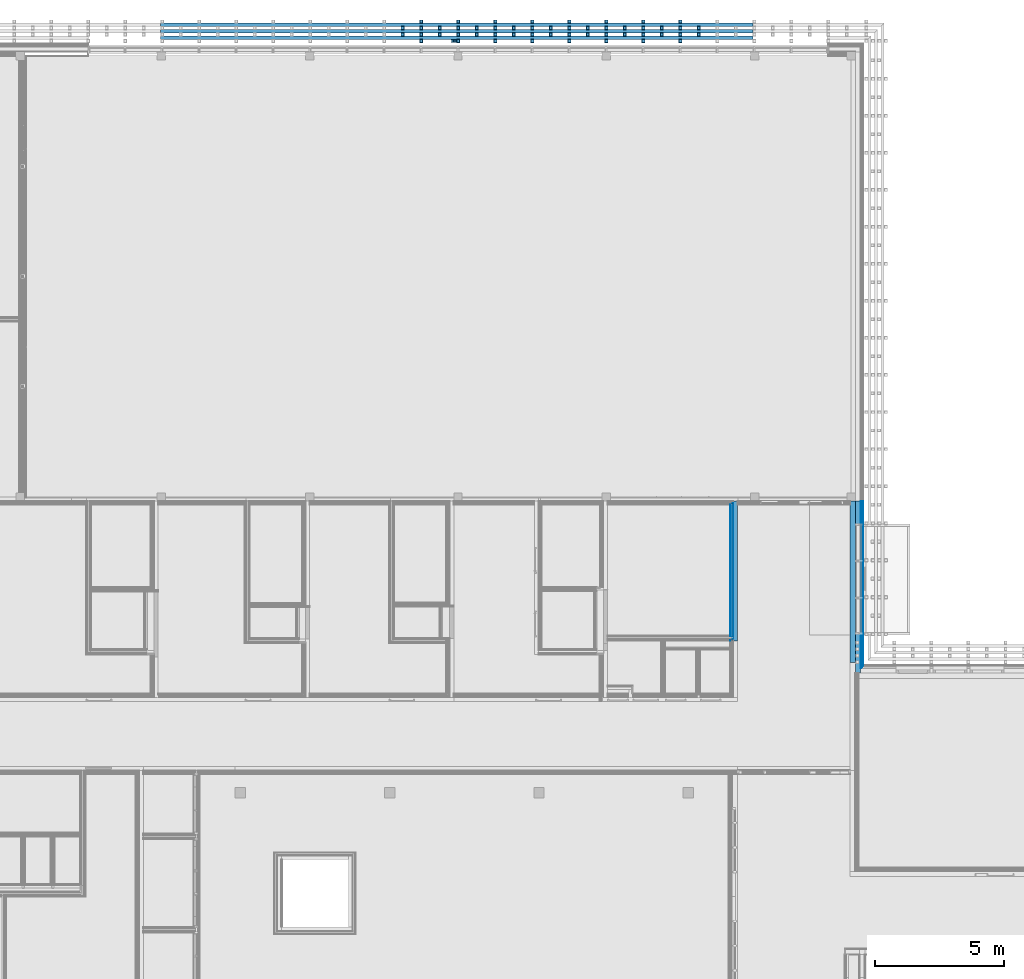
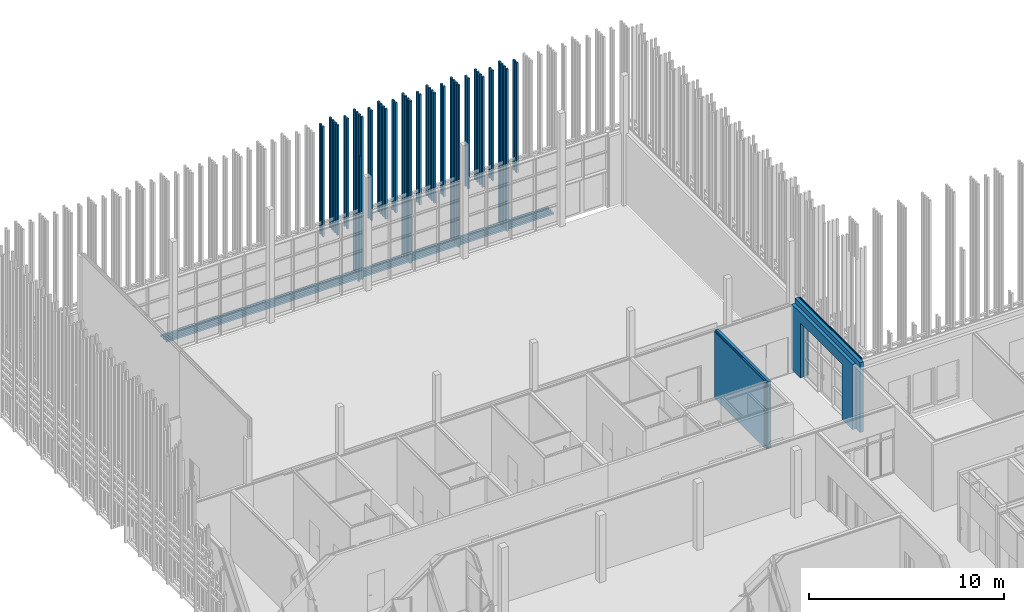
# One storey, part 232 of 260: 19 discrete accessories, 12 building element parts, 1 opening, 2 elements without a shape of their own.
"""IFC2X3 building model written with IfcOpenShell, lengths in millimetres."""

from ifc_helpers import new_model, entity, si_unit, converted_unit, derived_unit, money_unit, direction, frame, origin_with_axes, place, context, subcontext, project, spatial, open_shell, faceted_brep, surface_model, material, material_list, type_object, element, aggregate, save


model = new_model("IFC2X3")

# Units and contexts
model_context = context("Model", 3, precision=0.01, world=origin_with_axes(), true_north=direction((0.0, 1.0)))
body_context = subcontext(model_context, "Body", "Model", "MODEL_VIEW")
ifc_project = project(units=[si_unit("LENGTHUNIT", "METRE", prefix="MILLI"), si_unit("AREAUNIT", "SQUARE_METRE"), si_unit("VOLUMEUNIT", "CUBIC_METRE"), converted_unit("PLANEANGLEUNIT", "DEGREE", entity("IfcPlaneAngleMeasure", 0.0174532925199), si_unit("PLANEANGLEUNIT", "RADIAN"), dimensions=[0, 0, 0, 0, 0, 0, 0]), money_unit("EUR"), converted_unit("TIMEUNIT", "Year", entity("IfcTimeMeasure", 31556926.0), si_unit("TIMEUNIT", "SECOND"), dimensions=[0, 0, 1, 0, 0, 0, 0]), si_unit("MASSUNIT", "GRAM", prefix="KILO"), si_unit("THERMODYNAMICTEMPERATUREUNIT", "DEGREE_CELSIUS"), si_unit("LUMINOUSINTENSITYUNIT", "LUMEN"), si_unit("ENERGYUNIT", "JOULE", prefix="MEGA"), derived_unit("THERMALCONDUCTANCEUNIT", [(si_unit("POWERUNIT", "WATT"), 1), (si_unit("LENGTHUNIT", "METRE"), -1), (si_unit("THERMODYNAMICTEMPERATUREUNIT", "KELVIN"), -1)]), derived_unit("SPECIFICHEATCAPACITYUNIT", [(si_unit("ENERGYUNIT", "JOULE"), 1), (si_unit("MASSUNIT", "GRAM", prefix="KILO"), -1), (si_unit("THERMODYNAMICTEMPERATUREUNIT", "KELVIN"), -1)]), derived_unit("MASSDENSITYUNIT", [(si_unit("MASSUNIT", "GRAM", prefix="KILO"), 1), (si_unit("VOLUMEUNIT", "CUBIC_METRE"), -1)])], contexts=[model_context])

# Site, building, storey
site_placement = place(None, origin_with_axes())
site = spatial("IfcSite", under=ifc_project, at=site_placement, Name="Kolde pst 67a", CompositionType="ELEMENT")
building_placement = place(site_placement, origin_with_axes())
building = spatial("IfcBuilding", under=site, at=building_placement, Name="Riigigümnaasium", CompositionType="ELEMENT")
storey_placement = place(building_placement, origin_with_axes())
storey = spatial("IfcBuildingStorey", under=building, at=storey_placement, Name="1. korrus", CompositionType="ELEMENT", Elevation=0.0)

# Discrete accessories
ifc_material_1 = material(Name="_VÄLISVIIMISTLUS - sõrmjätkatud puitprussid 120x115mm, liitekohad vähemärgatavad, Platowood sõrmjätkatud kuusk või samaväärne; eeltöödeldud tuletõkkevõõbaga, tuletundlikkus B-s1, d0, Woodsafe Exterior WFX™ või samaväärne; kinnitused vastavalt EK osale")
ifc_material_list_1 = material_list([ifc_material_1, ifc_material_1, ifc_material_1, ifc_material_1])
discrete_accessory_type_1 = type_object("IfcDiscreteAccessoryType", Name="120 4-ne vertikaalne 870 x 115")
discrete_accessory_1_placement = place(storey_placement, frame((29692.4999347, 84790.0013546, 280.0), z_axis=(0.0, 0.0, 1.0), x_axis=(-2.93429595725e-05, -0.999999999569, 0.0)))
element("IfcDiscreteAccessory", 1, at=discrete_accessory_1_placement, inside=storey, type_object=discrete_accessory_type_1, material=ifc_material_list_1, Name="Päikesevarjestus", context=body_context, shape_type="Brep", body=[
    faceted_brep([(-133.0, -70.0, 0.0), (-13.0, -70.0, 0.0), (-13.0, -70.0, 10140.0), (-133.0, -70.0, 10140.0), (-133.0, 45.0, 0.0), (-13.0, 45.0, 0.0), (-13.0, 45.0, 10140.0), (-133.0, 45.0, 10140.0)], [[[0, 1, 2, 3]], [[0, 4, 5, 1]], [[1, 5, 6, 2]], [[3, 2, 6, 7]], [[4, 0, 3, 7]], [[5, 4, 7, 6]]]),
    faceted_brep([(-383.0, -70.0, 0.0), (-263.0, -70.0, 0.0), (-263.0, -70.0, 10140.0), (-383.0, -70.0, 10140.0), (-383.0, 45.0, 0.0), (-263.0, 45.0, 0.0), (-263.0, 45.0, 10140.0), (-383.0, 45.0, 10140.0)], [[[0, 1, 2, 3]], [[0, 4, 5, 1]], [[1, 5, 6, 2]], [[3, 2, 6, 7]], [[4, 0, 3, 7]], [[5, 4, 7, 6]]]),
    faceted_brep([(-633.0, -70.0, 0.0), (-513.0, -70.0, 0.0), (-513.0, -70.0, 10140.0), (-633.0, -70.0, 10140.0), (-633.0, 45.0, 0.0), (-513.0, 45.0, 0.0), (-513.0, 45.0, 10140.0), (-633.0, 45.0, 10140.0)], [[[0, 1, 2, 3]], [[0, 4, 5, 1]], [[1, 5, 6, 2]], [[3, 2, 6, 7]], [[4, 0, 3, 7]], [[5, 4, 7, 6]]]),
    faceted_brep([(-883.0, -70.0, 0.0), (-763.0, -70.0, 0.0), (-763.0, -70.0, 10140.0), (-883.0, -70.0, 10140.0), (-883.0, 45.0, 0.0), (-763.0, 45.0, 0.0), (-763.0, 45.0, 10140.0), (-883.0, 45.0, 10140.0)], [[[0, 1, 2, 3]], [[0, 4, 5, 1]], [[1, 5, 6, 2]], [[3, 2, 6, 7]], [[4, 0, 3, 7]], [[5, 4, 7, 6]]]),
])
discrete_accessory_2_placement = place(storey_placement, frame((28262.4999347, 84790.0013546, 3540.00014213), z_axis=(0.0, 0.0, 1.0), x_axis=(-2.93429595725e-05, -0.999999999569, 0.0)))
element("IfcDiscreteAccessory", 2, at=discrete_accessory_2_placement, inside=storey, type_object=discrete_accessory_type_1, material=ifc_material_list_1, Name="Päikesevarjestus", context=body_context, shape_type="Brep", body=[
    faceted_brep([(-133.0, -70.0, 0.0), (-13.0, -70.0, 0.0), (-13.0, -70.0, 6879.99985787), (-133.0, -70.0, 6879.99985787), (-133.0, 45.0, 0.0), (-13.0, 45.0, 0.0), (-13.0, 45.0, 6879.99985787), (-133.0, 45.0, 6879.99985787)], [[[0, 1, 2, 3]], [[0, 4, 5, 1]], [[1, 5, 6, 2]], [[3, 2, 6, 7]], [[4, 0, 3, 7]], [[5, 4, 7, 6]]]),
    faceted_brep([(-383.0, -70.0, 0.0), (-263.0, -70.0, 0.0), (-263.0, -70.0, 6879.99985787), (-383.0, -70.0, 6879.99985787), (-383.0, 45.0, 0.0), (-263.0, 45.0, 0.0), (-263.0, 45.0, 6879.99985787), (-383.0, 45.0, 6879.99985787)], [[[0, 1, 2, 3]], [[0, 4, 5, 1]], [[1, 5, 6, 2]], [[3, 2, 6, 7]], [[4, 0, 3, 7]], [[5, 4, 7, 6]]]),
    faceted_brep([(-633.0, -70.0, 0.0), (-513.0, -70.0, 0.0), (-513.0, -70.0, 6879.99985787), (-633.0, -70.0, 6879.99985787), (-633.0, 45.0, 0.0), (-513.0, 45.0, 0.0), (-513.0, 45.0, 6879.99985787), (-633.0, 45.0, 6879.99985787)], [[[0, 1, 2, 3]], [[0, 4, 5, 1]], [[1, 5, 6, 2]], [[3, 2, 6, 7]], [[4, 0, 3, 7]], [[5, 4, 7, 6]]]),
    faceted_brep([(-883.0, -70.0, 0.0), (-763.0, -70.0, 0.0), (-763.0, -70.0, 6879.99985787), (-883.0, -70.0, 6879.99985787), (-883.0, 45.0, 0.0), (-763.0, 45.0, 0.0), (-763.0, 45.0, 6879.99985787), (-883.0, 45.0, 6879.99985787)], [[[0, 1, 2, 3]], [[0, 4, 5, 1]], [[1, 5, 6, 2]], [[3, 2, 6, 7]], [[4, 0, 3, 7]], [[5, 4, 7, 6]]]),
])
discrete_accessory_3_placement = place(storey_placement, frame((26832.4999347, 84790.0013546, 280.0), z_axis=(0.0, 0.0, 1.0), x_axis=(-2.93429595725e-05, -0.999999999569, 0.0)))
element("IfcDiscreteAccessory", 3, at=discrete_accessory_3_placement, inside=storey, type_object=discrete_accessory_type_1, material=ifc_material_list_1, Name="Päikesevarjestus", context=body_context, shape_type="Brep", body=[
    faceted_brep([(-133.0, -70.0, 0.0), (-13.0, -70.0, 0.0), (-13.0, -70.0, 10140.0), (-133.0, -70.0, 10140.0), (-133.0, 45.0, 0.0), (-13.0, 45.0, 0.0), (-13.0, 45.0, 10140.0), (-133.0, 45.0, 10140.0)], [[[0, 1, 2, 3]], [[0, 4, 5, 1]], [[1, 5, 6, 2]], [[3, 2, 6, 7]], [[4, 0, 3, 7]], [[5, 4, 7, 6]]]),
    faceted_brep([(-383.0, -70.0, 0.0), (-263.0, -70.0, 0.0), (-263.0, -70.0, 10140.0), (-383.0, -70.0, 10140.0), (-383.0, 45.0, 0.0), (-263.0, 45.0, 0.0), (-263.0, 45.0, 10140.0), (-383.0, 45.0, 10140.0)], [[[0, 1, 2, 3]], [[0, 4, 5, 1]], [[1, 5, 6, 2]], [[3, 2, 6, 7]], [[4, 0, 3, 7]], [[5, 4, 7, 6]]]),
    faceted_brep([(-633.0, -70.0, 0.0), (-513.0, -70.0, 0.0), (-513.0, -70.0, 10140.0), (-633.0, -70.0, 10140.0), (-633.0, 45.0, 0.0), (-513.0, 45.0, 0.0), (-513.0, 45.0, 10140.0), (-633.0, 45.0, 10140.0)], [[[0, 1, 2, 3]], [[0, 4, 5, 1]], [[1, 5, 6, 2]], [[3, 2, 6, 7]], [[4, 0, 3, 7]], [[5, 4, 7, 6]]]),
    faceted_brep([(-883.0, -70.0, 0.0), (-763.0, -70.0, 0.0), (-763.0, -70.0, 10140.0), (-883.0, -70.0, 10140.0), (-883.0, 45.0, 0.0), (-763.0, 45.0, 0.0), (-763.0, 45.0, 10140.0), (-883.0, 45.0, 10140.0)], [[[0, 1, 2, 3]], [[0, 4, 5, 1]], [[1, 5, 6, 2]], [[3, 2, 6, 7]], [[4, 0, 3, 7]], [[5, 4, 7, 6]]]),
])
discrete_accessory_4_placement = place(storey_placement, frame((25402.4999347, 84790.0013546, 3540.00014213), z_axis=(0.0, 0.0, 1.0), x_axis=(-2.93429595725e-05, -0.999999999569, 0.0)))
element("IfcDiscreteAccessory", 4, at=discrete_accessory_4_placement, inside=storey, type_object=discrete_accessory_type_1, material=ifc_material_list_1, Name="Päikesevarjestus", context=body_context, shape_type="Brep", body=[
    faceted_brep([(-133.0, -70.0, 0.0), (-13.0, -70.0, 0.0), (-13.0, -70.0, 6879.99985787), (-133.0, -70.0, 6879.99985787), (-133.0, 45.0, 0.0), (-13.0, 45.0, 0.0), (-13.0, 45.0, 6879.99985787), (-133.0, 45.0, 6879.99985787)], [[[0, 1, 2, 3]], [[0, 4, 5, 1]], [[1, 5, 6, 2]], [[3, 2, 6, 7]], [[4, 0, 3, 7]], [[5, 4, 7, 6]]]),
    faceted_brep([(-383.0, -70.0, 0.0), (-263.0, -70.0, 0.0), (-263.0, -70.0, 6879.99985787), (-383.0, -70.0, 6879.99985787), (-383.0, 45.0, 0.0), (-263.0, 45.0, 0.0), (-263.0, 45.0, 6879.99985787), (-383.0, 45.0, 6879.99985787)], [[[0, 1, 2, 3]], [[0, 4, 5, 1]], [[1, 5, 6, 2]], [[3, 2, 6, 7]], [[4, 0, 3, 7]], [[5, 4, 7, 6]]]),
    faceted_brep([(-633.0, -70.0, 0.0), (-513.0, -70.0, 0.0), (-513.0, -70.0, 6879.99985787), (-633.0, -70.0, 6879.99985787), (-633.0, 45.0, 0.0), (-513.0, 45.0, 0.0), (-513.0, 45.0, 6879.99985787), (-633.0, 45.0, 6879.99985787)], [[[0, 1, 2, 3]], [[0, 4, 5, 1]], [[1, 5, 6, 2]], [[3, 2, 6, 7]], [[4, 0, 3, 7]], [[5, 4, 7, 6]]]),
    faceted_brep([(-883.0, -70.0, 0.0), (-763.0, -70.0, 0.0), (-763.0, -70.0, 6879.99985787), (-883.0, -70.0, 6879.99985787), (-883.0, 45.0, 0.0), (-763.0, 45.0, 0.0), (-763.0, 45.0, 6879.99985787), (-883.0, 45.0, 6879.99985787)], [[[0, 1, 2, 3]], [[0, 4, 5, 1]], [[1, 5, 6, 2]], [[3, 2, 6, 7]], [[4, 0, 3, 7]], [[5, 4, 7, 6]]]),
])
discrete_accessory_5_placement = place(storey_placement, frame((23972.4999347, 84790.0013546, 280.0), z_axis=(0.0, 0.0, 1.0), x_axis=(-2.93429595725e-05, -0.999999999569, 0.0)))
element("IfcDiscreteAccessory", 5, at=discrete_accessory_5_placement, inside=storey, type_object=discrete_accessory_type_1, material=ifc_material_list_1, Name="Päikesevarjestus", context=body_context, shape_type="Brep", body=[
    faceted_brep([(-133.0, -70.0, 0.0), (-13.0, -70.0, 0.0), (-13.0, -70.0, 10140.0), (-133.0, -70.0, 10140.0), (-133.0, 45.0, 0.0), (-13.0, 45.0, 0.0), (-13.0, 45.0, 10140.0), (-133.0, 45.0, 10140.0)], [[[0, 1, 2, 3]], [[0, 4, 5, 1]], [[1, 5, 6, 2]], [[3, 2, 6, 7]], [[4, 0, 3, 7]], [[5, 4, 7, 6]]]),
    faceted_brep([(-383.0, -70.0, 0.0), (-263.0, -70.0, 0.0), (-263.0, -70.0, 10140.0), (-383.0, -70.0, 10140.0), (-383.0, 45.0, 0.0), (-263.0, 45.0, 0.0), (-263.0, 45.0, 10140.0), (-383.0, 45.0, 10140.0)], [[[0, 1, 2, 3]], [[0, 4, 5, 1]], [[1, 5, 6, 2]], [[3, 2, 6, 7]], [[4, 0, 3, 7]], [[5, 4, 7, 6]]]),
    faceted_brep([(-633.0, -70.0, 0.0), (-513.0, -70.0, 0.0), (-513.0, -70.0, 10140.0), (-633.0, -70.0, 10140.0), (-633.0, 45.0, 0.0), (-513.0, 45.0, 0.0), (-513.0, 45.0, 10140.0), (-633.0, 45.0, 10140.0)], [[[0, 1, 2, 3]], [[0, 4, 5, 1]], [[1, 5, 6, 2]], [[3, 2, 6, 7]], [[4, 0, 3, 7]], [[5, 4, 7, 6]]]),
    faceted_brep([(-883.0, -70.0, 0.0), (-763.0, -70.0, 0.0), (-763.0, -70.0, 10140.0), (-883.0, -70.0, 10140.0), (-883.0, 45.0, 0.0), (-763.0, 45.0, 0.0), (-763.0, 45.0, 10140.0), (-883.0, 45.0, 10140.0)], [[[0, 1, 2, 3]], [[0, 4, 5, 1]], [[1, 5, 6, 2]], [[3, 2, 6, 7]], [[4, 0, 3, 7]], [[5, 4, 7, 6]]]),
])
discrete_accessory_6_placement = place(storey_placement, frame((22542.4999347, 84790.0013546, 3540.00014213), z_axis=(0.0, 0.0, 1.0), x_axis=(-2.93429595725e-05, -0.999999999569, 0.0)))
element("IfcDiscreteAccessory", 6, at=discrete_accessory_6_placement, inside=storey, type_object=discrete_accessory_type_1, material=ifc_material_list_1, Name="Päikesevarjestus", context=body_context, shape_type="Brep", body=[
    faceted_brep([(-133.0, -70.0, 0.0), (-13.0, -70.0, 0.0), (-13.0, -70.0, 6879.99985787), (-133.0, -70.0, 6879.99985787), (-133.0, 45.0, 0.0), (-13.0, 45.0, 0.0), (-13.0, 45.0, 6879.99985787), (-133.0, 45.0, 6879.99985787)], [[[0, 1, 2, 3]], [[0, 4, 5, 1]], [[1, 5, 6, 2]], [[3, 2, 6, 7]], [[4, 0, 3, 7]], [[5, 4, 7, 6]]]),
    faceted_brep([(-383.0, -70.0, 0.0), (-263.0, -70.0, 0.0), (-263.0, -70.0, 6879.99985787), (-383.0, -70.0, 6879.99985787), (-383.0, 45.0, 0.0), (-263.0, 45.0, 0.0), (-263.0, 45.0, 6879.99985787), (-383.0, 45.0, 6879.99985787)], [[[0, 1, 2, 3]], [[0, 4, 5, 1]], [[1, 5, 6, 2]], [[3, 2, 6, 7]], [[4, 0, 3, 7]], [[5, 4, 7, 6]]]),
    faceted_brep([(-633.0, -70.0, 0.0), (-513.0, -70.0, 0.0), (-513.0, -70.0, 6879.99985787), (-633.0, -70.0, 6879.99985787), (-633.0, 45.0, 0.0), (-513.0, 45.0, 0.0), (-513.0, 45.0, 6879.99985787), (-633.0, 45.0, 6879.99985787)], [[[0, 1, 2, 3]], [[0, 4, 5, 1]], [[1, 5, 6, 2]], [[3, 2, 6, 7]], [[4, 0, 3, 7]], [[5, 4, 7, 6]]]),
    faceted_brep([(-883.0, -70.0, 0.0), (-763.0, -70.0, 0.0), (-763.0, -70.0, 6879.99985787), (-883.0, -70.0, 6879.99985787), (-883.0, 45.0, 0.0), (-763.0, 45.0, 0.0), (-763.0, 45.0, 6879.99985787), (-883.0, 45.0, 6879.99985787)], [[[0, 1, 2, 3]], [[0, 4, 5, 1]], [[1, 5, 6, 2]], [[3, 2, 6, 7]], [[4, 0, 3, 7]], [[5, 4, 7, 6]]]),
])
discrete_accessory_7_placement = place(storey_placement, frame((21112.4999347, 84790.0013546, 280.0), z_axis=(0.0, 0.0, 1.0), x_axis=(-2.93429595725e-05, -0.999999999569, 0.0)))
element("IfcDiscreteAccessory", 7, at=discrete_accessory_7_placement, inside=storey, type_object=discrete_accessory_type_1, material=ifc_material_list_1, Name="Päikesevarjestus", context=body_context, shape_type="Brep", body=[
    faceted_brep([(-133.0, -70.0, 0.0), (-13.0, -70.0, 0.0), (-13.0, -70.0, 10140.0), (-133.0, -70.0, 10140.0), (-133.0, 45.0, 0.0), (-13.0, 45.0, 0.0), (-13.0, 45.0, 10140.0), (-133.0, 45.0, 10140.0)], [[[0, 1, 2, 3]], [[0, 4, 5, 1]], [[1, 5, 6, 2]], [[3, 2, 6, 7]], [[4, 0, 3, 7]], [[5, 4, 7, 6]]]),
    faceted_brep([(-383.0, -70.0, 0.0), (-263.0, -70.0, 0.0), (-263.0, -70.0, 10140.0), (-383.0, -70.0, 10140.0), (-383.0, 45.0, 0.0), (-263.0, 45.0, 0.0), (-263.0, 45.0, 10140.0), (-383.0, 45.0, 10140.0)], [[[0, 1, 2, 3]], [[0, 4, 5, 1]], [[1, 5, 6, 2]], [[3, 2, 6, 7]], [[4, 0, 3, 7]], [[5, 4, 7, 6]]]),
    faceted_brep([(-633.0, -70.0, 0.0), (-513.0, -70.0, 0.0), (-513.0, -70.0, 10140.0), (-633.0, -70.0, 10140.0), (-633.0, 45.0, 0.0), (-513.0, 45.0, 0.0), (-513.0, 45.0, 10140.0), (-633.0, 45.0, 10140.0)], [[[0, 1, 2, 3]], [[0, 4, 5, 1]], [[1, 5, 6, 2]], [[3, 2, 6, 7]], [[4, 0, 3, 7]], [[5, 4, 7, 6]]]),
    faceted_brep([(-883.0, -70.0, 0.0), (-763.0, -70.0, 0.0), (-763.0, -70.0, 10140.0), (-883.0, -70.0, 10140.0), (-883.0, 45.0, 0.0), (-763.0, 45.0, 0.0), (-763.0, 45.0, 10140.0), (-883.0, 45.0, 10140.0)], [[[0, 1, 2, 3]], [[0, 4, 5, 1]], [[1, 5, 6, 2]], [[3, 2, 6, 7]], [[4, 0, 3, 7]], [[5, 4, 7, 6]]]),
])
discrete_accessory_8_placement = place(storey_placement, frame((19682.4999347, 84790.0013546, 3540.00014213), z_axis=(0.0, 0.0, 1.0), x_axis=(-2.93429595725e-05, -0.999999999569, 0.0)))
element("IfcDiscreteAccessory", 8, at=discrete_accessory_8_placement, inside=storey, type_object=discrete_accessory_type_1, material=ifc_material_list_1, Name="Päikesevarjestus", context=body_context, shape_type="Brep", body=[
    faceted_brep([(-133.0, -70.0, 0.0), (-13.0, -70.0, 0.0), (-13.0, -70.0, 6879.99985787), (-133.0, -70.0, 6879.99985787), (-133.0, 45.0, 0.0), (-13.0, 45.0, 0.0), (-13.0, 45.0, 6879.99985787), (-133.0, 45.0, 6879.99985787)], [[[0, 1, 2, 3]], [[0, 4, 5, 1]], [[1, 5, 6, 2]], [[3, 2, 6, 7]], [[4, 0, 3, 7]], [[5, 4, 7, 6]]]),
    faceted_brep([(-383.0, -70.0, 0.0), (-263.0, -70.0, 0.0), (-263.0, -70.0, 6879.99985787), (-383.0, -70.0, 6879.99985787), (-383.0, 45.0, 0.0), (-263.0, 45.0, 0.0), (-263.0, 45.0, 6879.99985787), (-383.0, 45.0, 6879.99985787)], [[[0, 1, 2, 3]], [[0, 4, 5, 1]], [[1, 5, 6, 2]], [[3, 2, 6, 7]], [[4, 0, 3, 7]], [[5, 4, 7, 6]]]),
    faceted_brep([(-633.0, -70.0, 0.0), (-513.0, -70.0, 0.0), (-513.0, -70.0, 6879.99985787), (-633.0, -70.0, 6879.99985787), (-633.0, 45.0, 0.0), (-513.0, 45.0, 0.0), (-513.0, 45.0, 6879.99985787), (-633.0, 45.0, 6879.99985787)], [[[0, 1, 2, 3]], [[0, 4, 5, 1]], [[1, 5, 6, 2]], [[3, 2, 6, 7]], [[4, 0, 3, 7]], [[5, 4, 7, 6]]]),
    faceted_brep([(-883.0, -70.0, 0.0), (-763.0, -70.0, 0.0), (-763.0, -70.0, 6879.99985787), (-883.0, -70.0, 6879.99985787), (-883.0, 45.0, 0.0), (-763.0, 45.0, 0.0), (-763.0, 45.0, 6879.99985787), (-883.0, 45.0, 6879.99985787)], [[[0, 1, 2, 3]], [[0, 4, 5, 1]], [[1, 5, 6, 2]], [[3, 2, 6, 7]], [[4, 0, 3, 7]], [[5, 4, 7, 6]]]),
])
ifc_material_list_2 = material_list([ifc_material_1, ifc_material_1, ifc_material_1])
discrete_accessory_type_2 = type_object("IfcDiscreteAccessoryType", Name="120 1+paiksekaitse 3 tk  620 x 115")
discrete_accessory_9_placement = place(storey_placement, frame((32480.0258446, 84802.9999608, 352.5), z_axis=(0.0, 0.0, 1.0), x_axis=(0.0, 1.0, 0.0)))
element("IfcDiscreteAccessory", 9, at=discrete_accessory_9_placement, inside=storey, type_object=discrete_accessory_type_2, material=ifc_material_list_2, Name="Päikesevarjestus", context=body_context, shape_type="Brep", body=[
    faceted_brep([(625.0, 22879.9996825, 45.0), (625.0, 0.0, 45.0), (745.0, 0.0, 45.0), (745.0, 22879.9996825, 45.0), (625.0, 22879.9996825, -70.0), (625.0, 0.0, -70.0), (745.0, 0.0, -70.0), (745.0, 22879.9996825, -70.0)], [[[0, 1, 2, 3]], [[4, 5, 1, 0]], [[5, 6, 2, 1]], [[3, 2, 6, 7]], [[4, 0, 3, 7]], [[7, 6, 5, 4]]]),
    faceted_brep([(375.0, 22879.9996825, 45.0), (375.0, 0.0, 45.0), (495.0, 0.0, 45.0), (495.0, 22879.9996825, 45.0), (375.0, 22879.9996825, -70.0), (375.0, 0.0, -70.0), (495.0, 0.0, -70.0), (495.0, 22879.9996825, -70.0)], [[[0, 1, 2, 3]], [[4, 5, 1, 0]], [[5, 6, 2, 1]], [[3, 2, 6, 7]], [[4, 0, 3, 7]], [[7, 6, 5, 4]]]),
    faceted_brep([(125.0, 22879.9996825, 45.0), (125.0, 0.0, 45.0), (245.0, 0.0, 45.0), (245.0, 22879.9996825, 45.0), (125.0, 22879.9996825, -70.0), (125.0, 0.0, -70.0), (245.0, 0.0, -70.0), (245.0, 22879.9996825, -70.0)], [[[0, 1, 2, 3]], [[4, 5, 1, 0]], [[5, 6, 2, 1]], [[3, 2, 6, 7]], [[4, 0, 3, 7]], [[7, 6, 5, 4]]]),
])
ifc_material_list_3 = material_list([ifc_material_1, ifc_material_1])
discrete_accessory_type_3 = type_object("IfcDiscreteAccessoryType", Name="1+paiksekaitse 3 370 x 115")
for number, where, z_axis, x_axis in (
    (10, (30335.0181274, 85770.0034817, 3540.00014213), (0.0, 0.0, 1.0), (0.0, -1.0, 0.0)),
    (11, (28905.0181274, 85770.0034817, 3540.00014213), (0.0, 0.0, 1.0), (0.0, -1.0, 0.0)),
    (12, (27475.0181274, 85770.0034817, 3540.00014213), (0.0, 0.0, 1.0), (0.0, -1.0, 0.0)),
    (13, (26045.0181274, 85770.0034817, 3540.00014213), (0.0, 0.0, 1.0), (0.0, -1.0, 0.0)),
    (14, (24615.0181274, 85770.0034817, 3540.00014213), (0.0, 0.0, 1.0), (0.0, -1.0, 0.0)),
    (15, (23185.0181274, 85770.0034817, 3540.00014213), (0.0, 0.0, 1.0), (0.0, -1.0, 0.0)),
    (16, (21755.0181274, 85770.0034817, 3540.00014213), (0.0, 0.0, 1.0), (0.0, -1.0, 0.0)),
    (17, (20325.0181274, 85770.0034817, 3540.00014213), (0.0, 0.0, 1.0), (0.0, -1.0, 0.0)),
    (18, (18895.0286909, 85770.0034817, 3540.00014213), (0.0, 0.0, 1.0), (0.0, -1.0, 0.0)),
):
    element("IfcDiscreteAccessory", number, at=place(storey_placement, frame(where, z_axis=z_axis, x_axis=x_axis)), inside=storey, type_object=discrete_accessory_type_3, material=ifc_material_list_3, Name="Päikesevarjestus", context=body_context, shape_type="Brep", body=[
        faceted_brep([(467.0, 117.5, 0.0), (347.0, 117.5, 0.0), (347.0, 117.5, 6879.99985787), (467.0, 117.5, 6879.99985787), (467.0, 2.5, 0.0), (347.0, 2.5, 0.0), (347.0, 2.5, 6879.99985787), (467.0, 2.5, 6879.99985787)], [[[0, 1, 2, 3]], [[0, 4, 5, 1]], [[1, 5, 6, 2]], [[3, 2, 6, 7]], [[4, 0, 3, 7]], [[5, 4, 7, 6]]]),
        faceted_brep([(717.0, 117.5, 0.0), (597.0, 117.5, 0.0), (597.0, 117.5, 6879.99985787), (717.0, 117.5, 6879.99985787), (717.0, 2.5, 0.0), (597.0, 2.5, 0.0), (597.0, 2.5, 6879.99985787), (717.0, 2.5, 6879.99985787)], [[[0, 1, 2, 3]], [[0, 4, 5, 1]], [[1, 5, 6, 2]], [[3, 2, 6, 7]], [[4, 0, 3, 7]], [[5, 4, 7, 6]]]),
    ])
discrete_accessory_type_4 = type_object("IfcDiscreteAccessoryType", Name="Downspout Complex 25")
discrete_accessory_10_placement = place(storey_placement, frame((20973.9945477, 84860.8750192, 169.995312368), z_axis=(0.0, 0.0, 1.0), x_axis=(0.0, -1.0, 0.0)))
element("IfcDiscreteAccessory", 19, at=discrete_accessory_10_placement, inside=storey, type_object=discrete_accessory_type_4, Name="Vihmavee toru LORO-X Quadratic 100x100 mm, kuumtsingitud teras, või analoogne", context=body_context, shape_type="SurfaceModel", body=[
    surface_model("IfcShellBasedSurfaceModel", [(50.0, 50.0, 311.421356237), (50.0, -50.0, 311.421356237), (50.0, -50.0, 162.132034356), (50.0, -141.421356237, 70.7106781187), (50.0, -70.7106781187, 0.0), (50.0, 50.0, 120.710678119), (-50.0, -50.0, 311.421356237), (-50.0, -50.0, 162.132034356), (-50.0, -141.421356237, 70.7106781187), (-50.0, 50.0, 120.710678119), (-50.0, -70.7106781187, 0.0), (-50.0, 50.0, 311.421356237)], [open_shell([[[0, 1, 2, 3, 4, 5]], [[1, 6, 7, 2]], [[2, 7, 8, 3]], [[9, 5, 4, 10]], [[11, 0, 5, 9]], [[6, 11, 9, 10, 8, 7]]])]),
    surface_model("IfcShellBasedSurfaceModel", [(-50.0, -50.0, 7834.85468763), (-50.0, 50.0, 7834.85468763), (-50.0, 50.0, 311.421356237), (-50.0, -50.0, 311.421356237), (50.0, 50.0, 7834.85468763), (50.0, 50.0, 311.421356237), (50.0, -50.0, 7834.85468763), (50.0, -50.0, 311.421356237)], [open_shell([[[0, 1, 2, 3]], [[1, 4, 5, 2]], [[6, 0, 3, 7]], [[4, 6, 7, 5]]])]),
])

# Wall, opening, building element parts
wall_type_1 = type_object("IfcWallType", Name="VS-CLT-20/1 512", PredefinedType="NOTDEFINED")
wall_1_placement = place(storey_placement, frame((36439.99923, 60440.0001843, 100.0), z_axis=(0.0, 0.0, 1.0), x_axis=(0.0, 1.0, 0.0)))
wall_1 = element("IfcWall", 20, at=wall_1_placement, inside=storey, type_object=wall_type_1, Name="Välissein")
opening_placement = place(wall_1_placement, frame((3639.33737636, 0.0, -100.0), z_axis=(0.0, 0.0, 1.0), x_axis=(1.0, 0.0, 0.0)))
element("IfcOpeningElement", 21, at=opening_placement, cuts=wall_1, Name="Ava", context=body_context, shape_type="Brep", body=[
    faceted_brep([(2128.14263454, 512.0, 0.0), (2128.14263454, 512.0, 3540.00014213), (2128.14263454, -1024.0, 3540.00014213), (2128.14263454, -1024.0, 0.0), (-2128.14263454, 512.0, 0.0), (-2128.14263454, 512.0, 3540.00014213), (-2128.14263454, -1024.0, 3540.00014213), (-2128.14263454, -1024.0, 0.0)], [[[0, 1, 2, 3]], [[0, 4, 5, 1]], [[1, 5, 6, 2]], [[3, 2, 6, 7]], [[4, 0, 3, 7]], [[5, 4, 7, 6]]]),
])
ifc_material_2 = material(Name="_KANDETARIND - CLT ristkihtliimpuit vastavalt EK osale, CLT paigaldusvuugid teibitakse ROTHOBLAAS teibiga")
building_element_part_1_placement = place(wall_1_placement, origin_with_axes())
building_element_part_1 = element("IfcBuildingElementPart", 22, at=building_element_part_1_placement, material=ifc_material_2, Name="_KANDETARIND - CLT ristkihtliimpuit vastavalt EK osale, CLT paigaldusvuugid teibitakse ROTHOBLAAS teibiga", context=body_context, shape_type="Brep", body=[
    faceted_brep([(412.0, 0.0, 4070.0), (412.0, -1.4901146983e-06, 0.0), (1511.19474182, -1.22754073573e-06, 0.0), (1511.19474182, 0.0, 3440.00014213), (5767.4800109, 0.0, 3440.00014213), (5767.4800109, -2.10810924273e-07, 0.0), (6649.99770405, 0.0, 0.0), (6649.99770405, 0.0, 4070.0), (412.0, 200.0, 4070.0), (412.0, 200.0, 0.0), (1511.19474182, 200.0, 0.0), (1511.19474182, 200.0, 3440.00014213), (5767.4800109, 200.0, 3440.00014213), (5767.4800109, 200.0, 0.0), (6649.99770405, 200.0, 0.0), (6649.99770405, 200.0, 4070.0)], [[[0, 1, 2, 3, 4, 5, 6, 7]], [[1, 0, 8, 9]], [[1, 9, 10, 2]], [[10, 11, 3, 2]], [[11, 12, 4, 3]], [[12, 13, 5, 4]], [[14, 6, 5, 13]], [[14, 15, 7, 6]], [[8, 0, 7, 15]], [[13, 12, 11, 10, 9, 8, 15, 14]]]),
])
ifc_material_3 = material(Name="_SOOJUSTUS - mineraalvill, λD<0,032 W/(mK), kuumtsingitud lehtteras termoroovidega, S350GD+Zn275 vastavalt EN10346, ISOVER EXTREME 32 200mm või samaväärne")
building_element_part_2_placement = place(wall_1_placement, origin_with_axes())
building_element_part_2 = element("IfcBuildingElementPart", 23, at=building_element_part_2_placement, material=ifc_material_3, Name="_SOOJUSTUS - mineraalvill, λD<0,032 W/(mK), kuumtsingitud lehtteras termoroovidega, S350GD+Zn275 vastavalt EN10346, ISOVER EXTREME 32 200mm või samaväärne", context=body_context, shape_type="Brep", body=[
    faceted_brep([(0.0, -200.0, 4370.0), (0.0, -200.0, 0.0), (1511.19474182, -200.0, 0.0), (1511.19474182, -200.0, 3440.00014213), (5767.4800109, -200.0, 3440.00014213), (5767.4800109, -200.0, 0.0), (6649.99770405, -200.0, 0.0), (6649.99770405, -200.0, 4370.0), (0.0, 0.0, 0.0), (0.0, 0.0, 4370.0), (1511.19474182, 0.0, 0.0), (1511.19474182, 0.0, 3440.00014213), (5767.4800109, 0.0, 3440.00014213), (5767.4800109, 0.0, 0.0), (6649.99770405, 0.0, 0.0), (6649.99770405, 0.0, 4370.0)], [[[0, 1, 2, 3, 4, 5, 6, 7]], [[8, 1, 0, 9]], [[1, 8, 10, 2]], [[10, 11, 3, 2]], [[11, 12, 4, 3]], [[12, 13, 5, 4]], [[14, 6, 5, 13]], [[14, 15, 7, 6]], [[7, 15, 9, 0]], [[13, 12, 11, 10, 8, 9, 15, 14]]]),
])
ifc_material_4 = material(Name="_TUULETÕKE - tuuletõkkeplaat, soojuserijuhtivus λD<0,031 W/(mK), ISOVER RKL FACADE või samaväärne, liitekohad katta tihendusteibiga ISOVER FacadeTape või samaväärne")
building_element_part_3_placement = place(wall_1_placement, origin_with_axes())
building_element_part_3 = element("IfcBuildingElementPart", 24, at=building_element_part_3_placement, material=ifc_material_4, Name="_TUULETÕKE - tuuletõkkeplaat, soojuserijuhtivus λD<0,031 W/(mK), ISOVER RKL FACADE või samaväärne, liitekohad katta tihendusteibiga ISOVER FacadeTape või samaväärne", context=body_context, shape_type="Brep", body=[
    faceted_brep([(1511.19474182, -230.0, 0.0), (1511.19474182, -230.0, 3440.00014213), (5767.4800109, -230.0, 3440.00014213), (5767.4800109, -230.0, 0.0), (6649.99770405, -230.0, 0.0), (6649.99770405, -230.0, 4370.0), (200.0, -230.0, 4370.0), (200.0, -230.0, 0.0), (1511.19474182, -200.0, 0.0), (1511.19474182, -200.0, 3440.00014213), (5767.4800109, -200.0, 3440.00014213), (5767.4800109, -200.0, 0.0), (6649.99770405, -200.0, 0.0), (6649.99770405, -200.0, 4370.0), (200.0, -200.0, 4370.0), (200.0, -200.0, 0.0)], [[[0, 1, 2, 3, 4, 5, 6, 7]], [[1, 0, 8, 9]], [[2, 1, 9, 10]], [[3, 2, 10, 11]], [[3, 11, 12, 4]], [[5, 4, 12, 13]], [[14, 6, 5, 13]], [[6, 14, 15, 7]], [[8, 0, 7, 15]], [[9, 8, 15, 14, 13, 12, 11, 10]]]),
])
ifc_material_5 = material(Name="_KARKASS - puitroov 32x50mm vertikaalne, immutatud Driconi tulekaitsevahendiga või samaväärne, samm 600mm")
building_element_part_4_placement = place(wall_1_placement, origin_with_axes())
building_element_part_4 = element("IfcBuildingElementPart", 25, at=building_element_part_4_placement, material=ifc_material_5, Name="_KARKASS - puitroov 32x50mm vertikaalne, immutatud Driconi tulekaitsevahendiga või samaväärne, samm 600mm", context=body_context, shape_type="Brep", body=[
    faceted_brep([(1511.19474182, -262.0, 0.0), (1511.19474182, -262.0, 3440.00014213), (5767.4800109, -262.0, 3440.00014213), (5767.4800109, -262.0, 0.0), (6649.99770405, -262.0, 0.0), (6649.99770405, -262.0, 4370.0), (230.0, -262.0, 4370.0), (230.0, -262.0, 0.0), (1511.19474182, -230.0, 0.0), (1511.19474182, -230.0, 3440.00014213), (5767.4800109, -230.0, 3440.00014213), (5767.4800109, -230.0, 0.0), (6649.99770405, -230.0, 0.0), (6649.99770405, -230.0, 4370.0), (230.0, -230.0, 4370.0), (230.0, -230.0, 0.0)], [[[0, 1, 2, 3, 4, 5, 6, 7]], [[1, 0, 8, 9]], [[2, 1, 9, 10]], [[3, 2, 10, 11]], [[3, 11, 12, 4]], [[5, 4, 12, 13]], [[14, 6, 5, 13]], [[6, 14, 15, 7]], [[8, 0, 7, 15]], [[9, 8, 15, 14, 13, 12, 11, 10]]]),
])
ifc_material_6 = material(Name="_KARKASS - puitroov 32x50mm horisontaalne, immutatud Driconi tulekaitsevahendiga või samaväärne, samm 600mm")
building_element_part_5_placement = place(wall_1_placement, origin_with_axes())
building_element_part_5 = element("IfcBuildingElementPart", 26, at=building_element_part_5_placement, material=ifc_material_6, Name="_KARKASS - puitroov 32x50mm horisontaalne, immutatud Driconi tulekaitsevahendiga või samaväärne, samm 600mm", context=body_context, shape_type="Brep", body=[
    faceted_brep([(1511.19474182, -294.0, 0.0), (1511.19474182, -294.0, 3440.00014213), (5767.4800109, -294.0, 3440.00014213), (5767.4800109, -294.0, 0.0), (6649.99770405, -294.0, 0.0), (6649.99770405, -294.0, 4370.0), (262.0, -294.0, 4370.0), (262.0, -294.0, 0.0), (1511.19474182, -262.0, 0.0), (1511.19474182, -262.0, 3440.00014213), (5767.4800109, -262.0, 3440.00014213), (5767.4800109, -262.0, 0.0), (6649.99770405, -262.0, 0.0), (6649.99770405, -262.0, 4370.0), (262.0, -262.0, 4370.0), (262.0, -262.0, 0.0)], [[[0, 1, 2, 3, 4, 5, 6, 7]], [[1, 0, 8, 9]], [[2, 1, 9, 10]], [[3, 2, 10, 11]], [[3, 11, 12, 4]], [[5, 4, 12, 13]], [[14, 6, 5, 13]], [[6, 14, 15, 7]], [[8, 0, 7, 15]], [[9, 8, 15, 14, 13, 12, 11, 10]]]),
])
ifc_material_7 = material(Name="_VÄLISVIIMISTLUS - vertikaalne voodrilaud, Platowood P01 profiil 18x140mm, kuusk; eeltöödeldud tuletõkkega mõlemad küljed, B-s1, d0, Woodsafe Exterior WFX™ või samaväärne")
building_element_part_6_placement = place(wall_1_placement, origin_with_axes())
building_element_part_6 = element("IfcBuildingElementPart", 27, at=building_element_part_6_placement, material=ifc_material_7, Name="_VÄLISVIIMISTLUS - vertikaalne voodrilaud, Platowood P01 profiil 18x140mm, kuusk; eeltöödeldud tuletõkkega mõlemad küljed, B-s1, d0, Woodsafe Exterior WFX™ või samaväärne", context=body_context, shape_type="Brep", body=[
    faceted_brep([(1511.19474182, -312.0, 0.0), (1511.19474182, -312.0, 3440.00014213), (5767.4800109, -312.0, 3440.00014213), (5767.4800109, -312.0, 0.0), (6649.99770405, -312.0, 0.0), (6649.99770405, -312.0, 4370.0), (294.0, -312.0, 4370.0), (294.0, -312.0, 0.0), (1511.19474182, -294.0, 0.0), (1511.19474182, -294.0, 3440.00014213), (5767.4800109, -294.0, 3440.00014213), (5767.4800109, -294.0, 0.0), (6649.99770405, -294.0, 0.0), (6649.99770405, -294.0, 4370.0), (294.0, -294.0, 4370.0), (294.0, -294.0, 0.0)], [[[0, 1, 2, 3, 4, 5, 6, 7]], [[1, 0, 8, 9]], [[2, 1, 9, 10]], [[3, 2, 10, 11]], [[3, 11, 12, 4]], [[5, 4, 12, 13]], [[14, 6, 5, 13]], [[6, 14, 15, 7]], [[8, 0, 7, 15]], [[9, 8, 15, 14, 13, 12, 11, 10]]]),
])
aggregate(wall_1, [building_element_part_1, building_element_part_2, building_element_part_3, building_element_part_4, building_element_part_5, building_element_part_6])

# Wall, building element parts
wall_type_2 = type_object("IfcWallType", Name="SS-CLT-16/6_vill75 +värv 292", PredefinedType="NOTDEFINED")
wall_2_placement = place(storey_placement, frame((31890.0027795, 67249.9924635, 0.0), z_axis=(0.0, 0.0, 1.0), x_axis=(0.0, -1.0, 0.0)))
wall_2 = element("IfcWall", 28, at=wall_2_placement, inside=storey, type_object=wall_type_2, Name="Sisesein")
building_element_part_7_placement = place(wall_2_placement, origin_with_axes())
building_element_part_7 = element("IfcBuildingElementPart", 29, at=building_element_part_7_placement, material=ifc_material_2, Name="_KANDETARIND - CLT ristkihtliimpuit vastavalt EK osale, CLT paigaldusvuugid teibitakse ROTHOBLAAS teibiga", context=body_context, shape_type="Brep", body=[
    faceted_brep([(159.999972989, -160.0, 4170.0), (160.0, 0.0, 4170.0), (160.0, 0.0, 0.0), (159.999972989, -160.0, 0.0), (5563.97503475, 0.0, 4170.0), (5563.97503475, -160.0, 4170.0), (5563.97503475, 0.0, 0.0), (5563.97503475, -160.0, 0.0)], [[[0, 1, 2, 3]], [[4, 1, 0, 5]], [[1, 4, 6, 2]], [[2, 6, 7, 3]], [[5, 0, 3, 7]], [[4, 5, 7, 6]]]),
])
ifc_material_8 = material(Name="_ÕHKVAHE")
building_element_part_8_placement = place(wall_2_placement, origin_with_axes())
building_element_part_8 = element("IfcBuildingElementPart", 30, at=building_element_part_8_placement, material=ifc_material_8, Name="_ÕHKVAHE", context=body_context, shape_type="Brep", body=[
    faceted_brep([(5504.97503475, -185.0, 4170.0), (5504.97503475, -160.0, 4170.0), (5504.97503475, -160.0, 0.0), (5504.97503475, -185.0, 0.0), (5563.97503475, -160.0, 4170.0), (5563.97503475, -185.0, 4170.0), (5563.97503475, -160.0, 0.0), (5563.97503475, -185.0, 0.0)], [[[0, 1, 2, 3]], [[4, 1, 0, 5]], [[1, 4, 6, 2]], [[2, 6, 7, 3]], [[5, 0, 3, 7]], [[4, 5, 7, 6]]]),
    faceted_brep([(174.999968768, -185.0, 4170.0), (174.999972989, -160.0, 4170.0), (174.999972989, -160.0, 0.0), (174.999968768, -185.0, 0.0), (5404.97503475, -160.0, 4170.0), (5404.97503475, -185.0, 4170.0), (5404.97503475, -160.0, 0.0), (5404.97503475, -185.0, 0.0)], [[[0, 1, 2, 3]], [[4, 1, 0, 5]], [[1, 4, 6, 2]], [[6, 7, 3, 2]], [[5, 0, 3, 7]], [[4, 5, 7, 6]]]),
])
ifc_material_9 = material(Name="_KARKASS - metallkarkass CW 75/50/06 ja UW 75/40/06, samm 600, vahel mineraalvill, helineeldetegur αw = 1.0,  ISOVER ACOUSTIC 75mm või samaväärne")
building_element_part_9_placement = place(wall_2_placement, origin_with_axes())
building_element_part_9 = element("IfcBuildingElementPart", 31, at=building_element_part_9_placement, material=ifc_material_9, Name="_KARKASS - metallkarkass CW 75/50/06 ja UW 75/40/06, samm 600, vahel mineraalvill, helineeldetegur αw = 1.0,  ISOVER ACOUSTIC 75mm või samaväärne", context=body_context, shape_type="Brep", body=[
    faceted_brep([(5504.97503475, -260.0, 4170.0), (5504.97503475, -185.0, 4170.0), (5504.97503475, -185.0, 0.0), (5504.97503475, -260.0, 0.0), (5563.97503475, -185.0, 4170.0), (5563.97503475, -260.0, 4170.0), (5563.97503475, -185.0, 0.0), (5563.97503475, -260.0, 0.0)], [[[0, 1, 2, 3]], [[4, 1, 0, 5]], [[1, 4, 6, 2]], [[2, 6, 7, 3]], [[5, 0, 3, 7]], [[4, 5, 7, 6]]]),
    faceted_brep([(249.999956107, -260.0, 4170.0), (249.999968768, -185.0, 4170.0), (249.999968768, -185.0, 0.0), (249.999956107, -260.0, 0.0), (5404.97503475, -185.0, 4170.0), (5404.97503475, -260.0, 4170.0), (5404.97503475, -185.0, 0.0), (5404.97503475, -260.0, 0.0)], [[[0, 1, 2, 3]], [[4, 1, 0, 5]], [[1, 4, 6, 2]], [[6, 7, 3, 2]], [[5, 0, 3, 7]], [[4, 5, 7, 6]]]),
])
ifc_material_10 = material(Name="_PLAATMATERJAL - tuletõkkekipsplaat, Knauf Red GKF või samaväärne")
building_element_part_10_placement = place(wall_2_placement, origin_with_axes())
building_element_part_10 = element("IfcBuildingElementPart", 32, at=building_element_part_10_placement, material=ifc_material_10, Name="_PLAATMATERJAL - tuletõkkekipsplaat, Knauf Red GKF või samaväärne", context=body_context, shape_type="Brep", body=[
    faceted_brep([(5544.97503475, -275.0, 4170.0), (5544.97503475, -260.0, 4170.0), (5544.97503475, -260.0, 0.0), (5544.97503475, -275.0, 0.0), (5563.97503475, -260.0, 4170.0), (5563.97503475, -275.0, 4170.0), (5563.97503475, -260.0, 0.0), (5563.97503475, -275.0, 0.0)], [[[0, 1, 2, 3]], [[4, 1, 0, 5]], [[1, 4, 6, 2]], [[2, 6, 7, 3]], [[5, 0, 3, 7]], [[4, 5, 7, 6]]]),
    faceted_brep([(274.999953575, -275.0, 4170.0), (274.999956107, -260.0, 4170.0), (274.999956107, -260.0, 0.0), (274.999953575, -275.0, 0.0), (5404.97503475, -260.0, 4170.0), (5404.97503475, -275.0, 4170.0), (5404.97503475, -260.0, 0.0), (5404.97503475, -275.0, 0.0)], [[[0, 1, 2, 3]], [[4, 1, 0, 5]], [[1, 4, 6, 2]], [[6, 7, 3, 2]], [[5, 0, 3, 7]], [[4, 5, 7, 6]]]),
])
building_element_part_11_placement = place(wall_2_placement, origin_with_axes())
building_element_part_11 = element("IfcBuildingElementPart", 33, at=building_element_part_11_placement, material=ifc_material_10, Name="_PLAATMATERJAL - tuletõkkekipsplaat, Knauf Red GKF või samaväärne", context=body_context, shape_type="Brep", body=[
    faceted_brep([(5544.97503475, -290.0, 4170.0), (5544.97503475, -275.0, 4170.0), (5544.97503475, -275.0, 0.0), (5544.97503475, -290.0, 0.0), (5563.97503475, -275.0, 4170.0), (5563.97503475, -290.0, 4170.0), (5563.97503475, -275.0, 0.0), (5563.97503475, -290.0, 0.0)], [[[0, 1, 2, 3]], [[4, 1, 0, 5]], [[1, 4, 6, 2]], [[2, 6, 7, 3]], [[5, 0, 3, 7]], [[4, 5, 7, 6]]]),
    faceted_brep([(289.999951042, -290.0, 4170.0), (289.999953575, -275.0, 4170.0), (289.999953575, -275.0, 0.0), (289.999951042, -290.0, 0.0), (5389.97503475, -275.0, 4170.0), (5389.97503475, -290.0, 4170.0), (5389.97503475, -275.0, 0.0), (5389.97503475, -290.0, 0.0)], [[[0, 1, 2, 3]], [[4, 1, 0, 5]], [[1, 4, 6, 2]], [[6, 7, 3, 2]], [[5, 0, 3, 7]], [[4, 5, 7, 6]]]),
])
ifc_material_11 = material(Name="_VIIMISTLUSKIHT - viimistlus vastavalt SA osale")
building_element_part_12_placement = place(wall_2_placement, origin_with_axes())
building_element_part_12 = element("IfcBuildingElementPart", 34, at=building_element_part_12_placement, material=ifc_material_11, Name="_VIIMISTLUSKIHT - viimistlus vastavalt SA osale", context=body_context, shape_type="Brep", body=[
    faceted_brep([(5544.97503475, -292.0, 4170.0), (5544.97503475, -290.0, 4170.0), (5544.97503475, -290.0, 0.0), (5544.97503475, -292.0, 0.0), (5563.97503475, -290.0, 4170.0), (5563.97503475, -292.0, 4170.0), (5563.97503475, -290.0, 0.0), (5563.97503475, -292.0, 0.0)], [[[0, 1, 2, 3]], [[4, 1, 0, 5]], [[1, 4, 6, 2]], [[2, 6, 7, 3]], [[5, 0, 3, 7]], [[4, 5, 7, 6]]]),
    faceted_brep([(299.999950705, -292.0, 4170.0), (299.999951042, -290.0, 4170.0), (299.999951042, -290.0, 0.0), (299.999950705, -292.0, 0.0), (5374.97503475, -290.0, 4170.0), (5374.97503475, -292.0, 4170.0), (5374.97503475, -290.0, 0.0), (5374.97503475, -292.0, 0.0)], [[[0, 1, 2, 3]], [[4, 1, 0, 5]], [[1, 4, 6, 2]], [[6, 7, 3, 2]], [[5, 0, 3, 7]], [[4, 5, 7, 6]]]),
])
aggregate(wall_2, [building_element_part_7, building_element_part_8, building_element_part_9, building_element_part_10, building_element_part_11, building_element_part_12])

save(model, "model.ifc")
